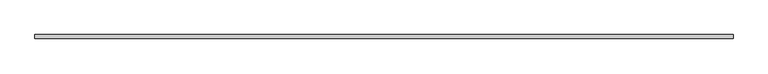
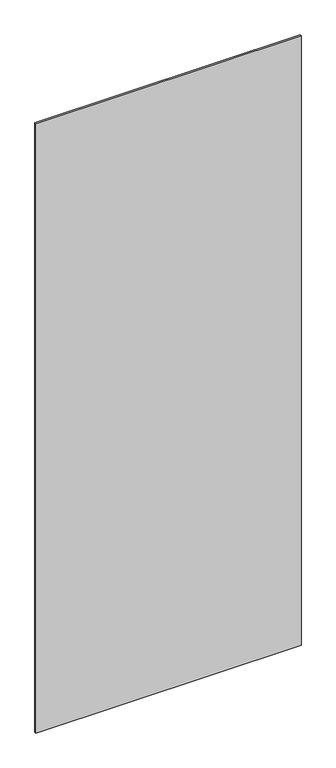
"""IFC4 building model written with IfcOpenShell, lengths in millimetres: plate geometry, システム パネル : 標準."""

import ifcopenshell
import ifcopenshell.guid

model = None  # the IFC model being written
_history = None  # IfcOwnerHistory: only IFC2X3 demands one
_inside = {}  # id of a spatial element -> (the spatial element, [elements in it])
_under = {}  # id of a project, library or spatial element -> (it, [spatial elements below it])
_declared = {}  # id of a project -> (the project, [libraries it declares])
_typed = {}  # id of a type object -> (the type object, [elements of that type])
_made_of = {}  # id of a material, layer set ... -> (it, [elements and type objects made of it])


def new_model(schema):
    """Start an empty IFC model of exactly this schema.

    Asked for "IFC4X3", IfcOpenShell would pick the latest addendum, in which some entities
    have other attributes; the version numbers below select the first issue.
    IFC2X3 requires an IfcOwnerHistory on every rooted entity: one is made here for all.
    """
    global model, _history
    if schema == "IFC4X3":
        model = ifcopenshell.file(schema_version=(4, 3, 0, 0))
    else:
        model = ifcopenshell.file(schema=schema)
    _inside.clear()
    _under.clear()
    _declared.clear()
    _typed.clear()
    _made_of.clear()
    _history = None
    if model.schema == "IFC2X3":
        org = make("IfcOrganization", Name="unknown")
        user = make(
            "IfcPersonAndOrganization",
            ThePerson=make("IfcPerson", FamilyName="unknown"),
            TheOrganization=org,
        )
        app = make(
            "IfcApplication",
            ApplicationDeveloper=org,
            Version="unknown",
            ApplicationFullName="unknown",
            ApplicationIdentifier="unknown",
        )
        _history = make(
            "IfcOwnerHistory",
            OwningUser=user,
            OwningApplication=app,
            ChangeAction="ADDED",
            CreationDate=0,
        )
    return model


def make(cls, **values):
    """One entity of the class cls with the attributes given. An attribute that is None is left unset."""
    return model.create_entity(
        cls, **{name: value for name, value in values.items() if value is not None}
    )


def rooted(cls, **values):
    """An entity with a GlobalId (a new one), such as an element, a storey or a relation."""
    return make(cls, GlobalId=ifcopenshell.guid.new(), OwnerHistory=_history, **values)


def si_unit(unit_type, name, prefix=None):
    """IfcSIUnit, for example si_unit("LENGTHUNIT", "METRE", prefix="MILLI")."""
    return make("IfcSIUnit", UnitType=unit_type, Prefix=prefix, Name=name)


def assignment(units):
    """IfcUnitAssignment: the units of a project."""
    return None if units is None else make("IfcUnitAssignment", Units=units)


def point(xyz):
    """IfcCartesianPoint."""
    return None if xyz is None else make("IfcCartesianPoint", Coordinates=xyz)


def direction(xyz):
    """IfcDirection."""
    return None if xyz is None else make("IfcDirection", DirectionRatios=xyz)


def frame(location, z_axis=None, x_axis=None):
    """IfcAxis2Placement3D, a coordinate frame: its origin and axes. An axis left out is left unset."""
    return make(
        "IfcAxis2Placement3D",
        Location=point(location),
        Axis=direction(z_axis),
        RefDirection=direction(x_axis),
    )


def origin():
    """The frame at (0, 0, 0) with its axes left unset."""
    return frame((0.0, 0.0, 0.0))


def origin_with_axes():
    """The frame at (0, 0, 0) with the z axis (0, 0, 1) and the x axis (1, 0, 0) written out."""
    return frame((0.0, 0.0, 0.0), z_axis=(0.0, 0.0, 1.0), x_axis=(1.0, 0.0, 0.0))


def place(relative_to, where):
    """IfcLocalPlacement: puts the frame where relative to a parent placement (None: the world)."""
    return make(
        "IfcLocalPlacement", PlacementRelTo=relative_to, RelativePlacement=where
    )


def context(
    kind, dimensions, precision=None, world=None, true_north=None, identifier=None
):
    """IfcGeometricRepresentationContext, for example the 3D "Model" context."""
    return make(
        "IfcGeometricRepresentationContext",
        ContextIdentifier=identifier,
        ContextType=kind,
        CoordinateSpaceDimension=dimensions,
        Precision=precision,
        WorldCoordinateSystem=world,
        TrueNorth=true_north,
    )


def project(units=None, contexts=None):
    """IfcProject with its units and contexts."""
    return rooted(
        "IfcProject",
        Name="project",
        RepresentationContexts=contexts,
        UnitsInContext=assignment(units),
    )


def spatial(cls, under=None, at=None, **own):
    """A site, building, storey or space (cls), placed at a placement, below another one or the project."""
    s = rooted(cls, ObjectPlacement=at, **own)
    if under is not None:
        _under.setdefault(under.id(), (under, []))[1].append(s)
    return s


def polyline(points):
    """IfcPolyline through the points."""
    return make("IfcPolyline", Points=[point(p) for p in points])


def outline(outer, holes=None, kind="AREA"):
    """IfcArbitraryClosedProfileDef: a profile drawn as a closed curve; with holes, ...WithVoids."""
    if holes is None:
        return make("IfcArbitraryClosedProfileDef", ProfileType=kind, OuterCurve=outer)
    return make(
        "IfcArbitraryProfileDefWithVoids",
        ProfileType=kind,
        OuterCurve=outer,
        InnerCurves=holes,
    )


def extrude(swept, where, along, depth):
    """IfcExtrudedAreaSolid: the profile swept, set in the frame where, extruded along a direction by depth."""
    return make(
        "IfcExtrudedAreaSolid",
        SweptArea=swept,
        Position=where,
        ExtrudedDirection=direction(along),
        Depth=depth,
    )


def shape(context_of_items, identifier, shape_type, items):
    """IfcShapeRepresentation: the items that make up one representation, for example the "Body"."""
    return make(
        "IfcShapeRepresentation",
        ContextOfItems=context_of_items,
        RepresentationIdentifier=identifier,
        RepresentationType=shape_type,
        Items=items,
    )


def source(mapping_origin, context_of_items, identifier, shape_type, items):
    """IfcRepresentationMap: a shape defined once, which mapped items show again and again."""
    return make(
        "IfcRepresentationMap",
        MappingOrigin=mapping_origin,
        MappedRepresentation=shape(context_of_items, identifier, shape_type, items),
    )


def transform(
    local_origin,
    x_axis=None,
    y_axis=None,
    z_axis=None,
    scale=None,
    scale2=None,
    scale3=None,
    uniform=True,
):
    """IfcCartesianTransformationOperator3D, or its non-uniform kind. x_axis, y_axis, z_axis: its Axis1, 2, 3."""
    if uniform:
        return make(
            "IfcCartesianTransformationOperator3D",
            Axis1=direction(x_axis),
            Axis2=direction(y_axis),
            LocalOrigin=point(local_origin),
            Scale=scale,
            Axis3=direction(z_axis),
        )
    return make(
        "IfcCartesianTransformationOperator3DnonUniform",
        Axis1=direction(x_axis),
        Axis2=direction(y_axis),
        LocalOrigin=point(local_origin),
        Scale=scale,
        Axis3=direction(z_axis),
        Scale2=scale2,
        Scale3=scale3,
    )


def mapped(mapping_source, mapping_target):
    """IfcMappedItem: shows the shape of a source again, moved by a transform."""
    return make(
        "IfcMappedItem", MappingSource=mapping_source, MappingTarget=mapping_target
    )


def made_of(thing, what):
    """Note that an element or type object is made of a material, layer set ...; save() writes the relation."""
    if what is not None:
        _made_of.setdefault(what.id(), (what, []))[1].append(thing)
    return thing


def element(
    cls,
    number,
    at=None,
    inside=None,
    cuts=None,
    type_object=None,
    material=None,
    context=None,
    identifier="Body",
    shape_type=None,
    held_by="IfcProductDefinitionShape",
    body=None,
    shapes=None,
    **own,
):
    """One element of the class cls, such as IfcWall. Its Tag is "e" and its number.

    at: its placement. inside: the storey or other place that contains it. cuts: it is an
    opening in that element (IfcRelVoidsElement). A single representation is given by context,
    identifier, shape_type and body (its items); several are given by shapes. held_by: the class
    of the entity that holds the representations. save() writes the other relations.
    """
    e = rooted(cls, Tag="e%d" % number, ObjectPlacement=at, **own)
    if body is not None:
        shapes = [shape(context, identifier, shape_type, body)]
    if shapes is not None:
        e.Representation = make(held_by, Representations=shapes)
    if inside is not None:
        _inside.setdefault(inside.id(), (inside, []))[1].append(e)
    if cuts is not None:
        rooted(
            "IfcRelVoidsElement", RelatingBuildingElement=cuts, RelatedOpeningElement=e
        )
    if type_object is not None:
        _typed.setdefault(type_object.id(), (type_object, []))[1].append(e)
    return made_of(e, material)


def aggregate(whole, parts):
    """IfcRelAggregates: a whole, such as a stair, and the parts it consists of."""
    return rooted("IfcRelAggregates", RelatingObject=whole, RelatedObjects=parts)


def save(model, path):
    """Write the relations noted so far, then the file.

    IfcRelAggregates (storeys below a building ...), IfcRelContainedInSpatialStructure (elements
    in a storey), IfcRelDefinesByType, IfcRelAssociatesMaterial and IfcRelDeclares: one each for
    every whole, place, type object, material and project.
    """
    for whole, parts in _under.values():
        aggregate(whole, parts)
    for where, things in _inside.values():
        rooted(
            "IfcRelContainedInSpatialStructure",
            RelatedElements=things,
            RelatingStructure=where,
        )
    for kind, things in _typed.values():
        rooted("IfcRelDefinesByType", RelatedObjects=things, RelatingType=kind)
    for what, things in _made_of.values():
        rooted("IfcRelAssociatesMaterial", RelatedObjects=things, RelatingMaterial=what)
    for by, libraries in _declared.values():
        rooted("IfcRelDeclares", RelatingContext=by, RelatedDefinitions=libraries)
    model.write(path)


def plate_8e4a2d0e(model_context):
    return source(origin(), model_context, "Body", "SweptSolid", [
        extrude(outline(polyline([(897.5, -5.0), (-897.5, -5.0), (-897.5, 5.0), (897.5, 5.0), (897.5, -5.0)])), origin_with_axes(), (0.0, 0.0, 1.0), 4360.0),
    ])


if __name__ == "__main__":
    model = new_model("IFC4")
    model_context = context("Model", 3, world=origin())
    ifc_project = project(units=[si_unit("LENGTHUNIT", "METRE", prefix="MILLI")], contexts=[model_context])
    site = spatial("IfcSite", under=ifc_project)
    building = spatial("IfcBuilding", under=site)
    placement = place(None, origin())
    plate_shape = plate_8e4a2d0e(model_context)
    element("IfcPlate", 1, ObjectType="システム パネル : 標準", at=placement, inside=building, context=model_context, shape_type="MappedRepresentation", body=[
        mapped(plate_shape, transform((0.0, 0.0, 0.0), x_axis=(1.0, 0.0, 0.0), y_axis=(0.0, 1.0, 0.0), z_axis=(0.0, 0.0, 1.0))),
    ])
    save(model, "model.ifc")
